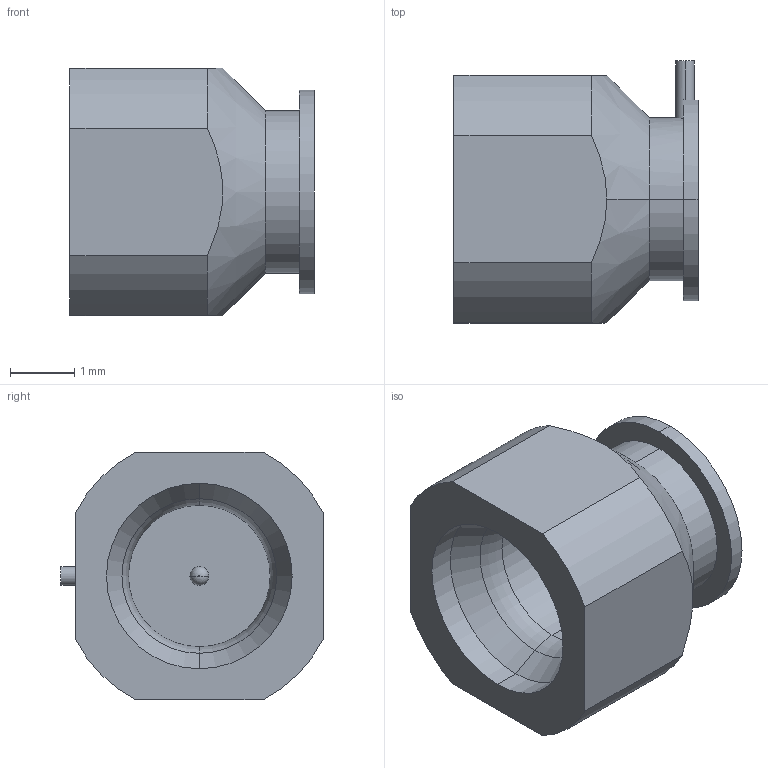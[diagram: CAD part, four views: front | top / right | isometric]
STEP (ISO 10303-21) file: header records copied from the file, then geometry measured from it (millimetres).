
FILE_DESCRIPTION (( 'STEP AP214' ), '1' );
FILE_NAME ('3287-6101.STEP', '2015-04-16T16:55:19', ( 'image' ), ( '' ), 'SwSTEP 2.0', 'SolidWorks 2014', '' );
FILE_SCHEMA (( 'AUTOMOTIVE_DESIGN' ));
Length unit declared in the file: inch
Products named in the file (1): 3287-6101
Bounding box: 3.81 x 4.09 x 3.86 mm (x, y, z)
Volume: 32.1 mm3; surface area: 88.1 mm2
Topology: 1 solids, 1 shells, 39 faces, 94 edges, 60 vertices
Faces by surface type: cylinder 19, plane 12, torus 4, cone 4
Entity records: 1781 total; most frequent: CARTESIAN_POINT 304, DIRECTION 206, ORIENTED_EDGE 188, EDGE_CURVE 94, AXIS2_PLACEMENT_3D 84, VERTEX_POINT 60, CIRCLE 44, EDGE_LOOP 42
